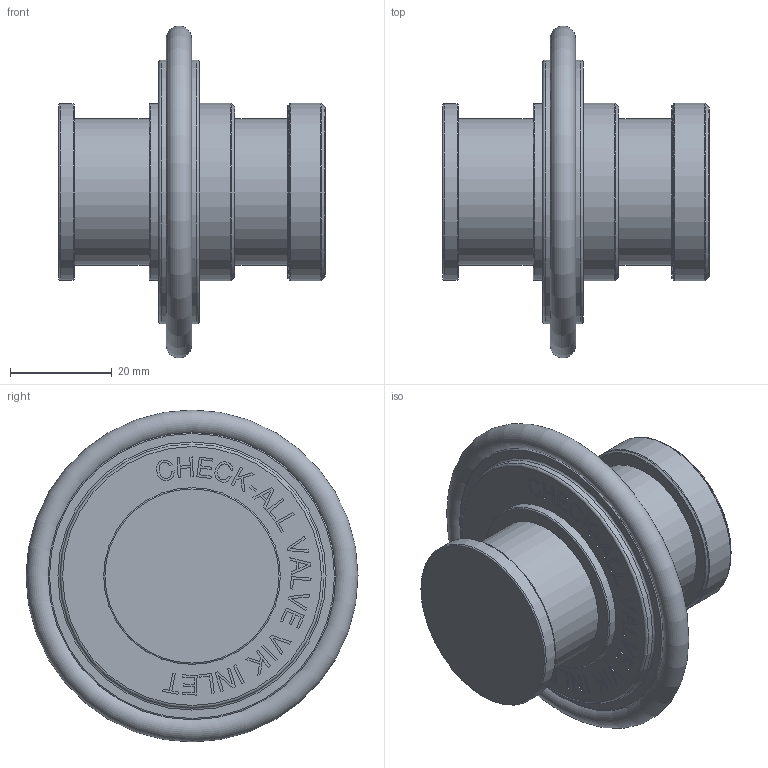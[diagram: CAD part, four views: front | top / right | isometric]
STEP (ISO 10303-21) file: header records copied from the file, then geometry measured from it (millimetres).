
FILE_DESCRIPTION(/* description */ ('Unknown'),/* implementation_level */ '2;1');
FILE_NAME(/* name */ 'VIK',/* time_stamp */ '2018-08-09T11:24:52-05:00',/* author */ ('Unknown'),/* organization */ ('Unknown'),/* preprocessor_version */ 'ST-DEVELOPER v16.7',/* originating_system */ 'DEX',/* authorisation */ $);
FILE_SCHEMA (('AUTOMOTIVE_DESIGN {1 0 10303 214 3 1 1}'));
Length unit declared in the file: millimetre
Products named in the file (1): VIK
Bounding box: 52.44 x 65.4 x 65.4 mm (x, y, z)
Volume: 56757 mm3; surface area: 13541.8 mm2
Topology: 1 solids, 1 shells, 238 faces, 601 edges, 397 vertices
Faces by surface type: plane 207, torus 16, cylinder 8, bspline 4, cone 3
Full cylindrical faces by diameter (mm): 28.829 x2, 34.798 x2, 34.925 x2, 51.994 x2
Entity records: 8739 total; most frequent: CARTESIAN_POINT 1456, ORIENTED_EDGE 1134, DIRECTION 1065, EDGE_CURVE 567, LINE 523, VECTOR 523, VERTEX_POINT 390, EDGE_LOOP 297
